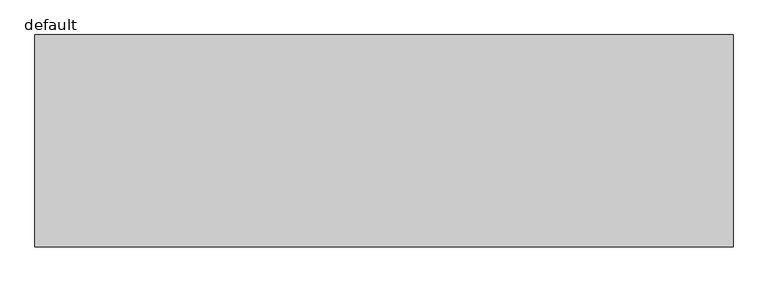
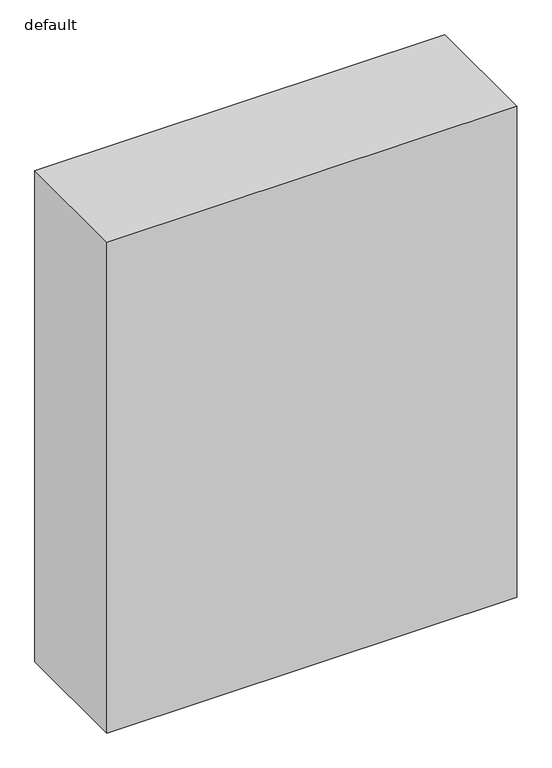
"""IFC4 building model written with IfcOpenShell, lengths in millimetres: furniture geometry, Fu_шкаф встроенный_LEG : default."""

from ifc_helpers import new_model, si_unit, origin, origin_with_axes, place, context, project, spatial, polyline, outline, extrude, source, transform, mapped, element, save


def default_e9a682a2(model_context):
    return source(origin(), model_context, "Body", "SweptSolid", [
        extrude(outline(polyline([(1975.0, 0.0), (0.0, 0.0), (0.0, 600.0), (1975.0, 600.0), (1975.0, 0.0)])), origin_with_axes(), (0.0, 0.0, 1.0), 2500.0),
    ])


if __name__ == "__main__":
    model = new_model("IFC4")
    model_context = context("Model", 3, world=origin())
    ifc_project = project(units=[si_unit("LENGTHUNIT", "METRE", prefix="MILLI")], contexts=[model_context])
    site = spatial("IfcSite", under=ifc_project)
    building = spatial("IfcBuilding", under=site)
    placement = place(None, origin())
    default_shape = default_e9a682a2(model_context)
    element("IfcFurniture", 1, ObjectType="Fu_шкаф встроенный_LEG : default", at=placement, inside=building, context=model_context, shape_type="MappedRepresentation", body=[
        mapped(default_shape, transform((0.0, 0.0, 0.0), x_axis=(1.0, 0.0, 0.0), y_axis=(0.0, 1.0, 0.0), z_axis=(0.0, 0.0, 1.0))),
    ])
    save(model, "model.ifc")
